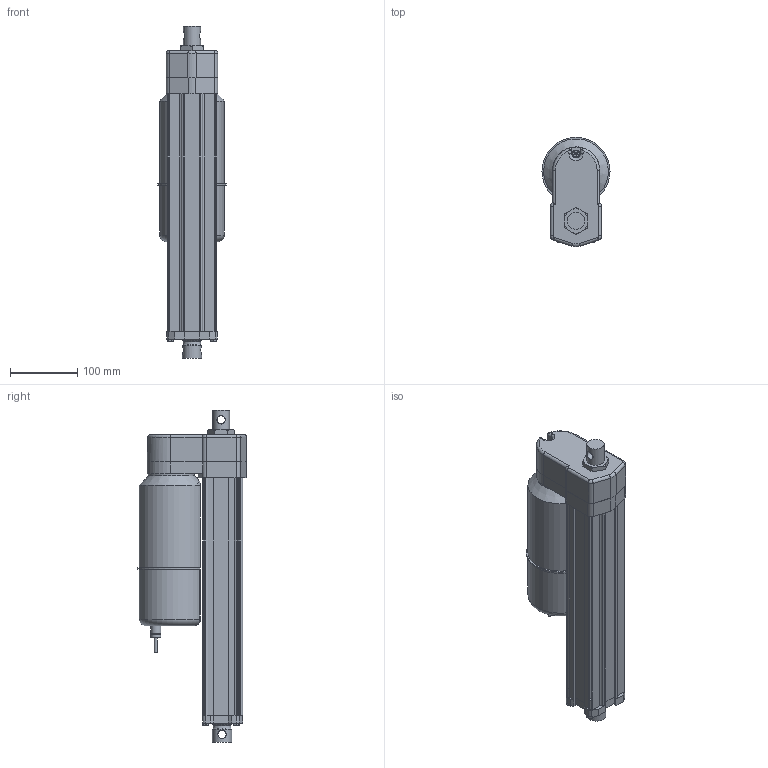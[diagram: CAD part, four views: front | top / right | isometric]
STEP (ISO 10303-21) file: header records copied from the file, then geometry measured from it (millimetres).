
FILE_DESCRIPTION (( 'STEP AP214' ), '1' );
FILE_NAME ('AA22-05A65M-30M0N-tollo.step', '2020-04-13T18:49:09', ( '' ), ( '' ), 'SwSTEP 2.0', 'SolidWorks 2010', '' );
FILE_SCHEMA (( 'AUTOMOTIVE_DESIGN' ));
Length unit declared in the file: millimetre
Products named in the file (8): Electrak-LA24-Motor-AA22-05A65M-30M0N-tollo_Electrak-LA24-Motor-AA22-05A65M-30M0N-tollo; Electrak-LA24-Rear-AA22-05A65M-30M0N-tollo_Electrak-LA24-Rear-AA22-05A65M-30M0N-tollo; Electrak-LA24-Tube-AA22-05A65M-30M0N-tollo_Electrak-LA24-Tube-AA22-05A65M-30M0N-tollo; Electrak-LA24-Rod-AA22-05A65M-30M0N-tollo_Electrak-LA24-Rod-AA22-05A65M-30M0N-tollo; Electrak-LA24-Plate-AA22-05A65M-30M0N-tollo_Electrak-LA24-Plate-AA22-05A65M-30M0N-tollo; Screw-MFX-H-M5_Screw-MFX-H-M5x24H; Screw-M6S-M5-AA22-05A65M-30M0N-tollo_Screw-M6S-M5-AA22-05A65M-30M0N-tollo; AA22-05A65M-30M0N-tollo
Assembly tree (10 placements, depth 2):
  AA22-05A65M-30M0N-tollo
    Electrak-LA24-Rear-AA22-05A65M-30M0N-tollo_Electrak-LA24-Rear-AA22-05A65M-30M0N-tollo
    Electrak-LA24-Tube-AA22-05A65M-30M0N-tollo_Electrak-LA24-Tube-AA22-05A65M-30M0N-tollo
    Screw-M6S-M5-AA22-05A65M-30M0N-tollo_Screw-M6S-M5-AA22-05A65M-30M0N-tollo  x4
    Electrak-LA24-Motor-AA22-05A65M-30M0N-tollo_Electrak-LA24-Motor-AA22-05A65M-30M0N-tollo
    Screw-MFX-H-M5_Screw-MFX-H-M5x24H
    Electrak-LA24-Plate-AA22-05A65M-30M0N-tollo_Electrak-LA24-Plate-AA22-05A65M-30M0N-tollo
    Electrak-LA24-Rod-AA22-05A65M-30M0N-tollo_Electrak-LA24-Rod-AA22-05A65M-30M0N-tollo
Bounding box: 100.99 x 162.5 x 492.8 mm (x, y, z)
Volume: 2780354.8 mm3; surface area: 387055.3 mm2
Topology: 10 solids, 10 shells, 353 faces, 886 edges, 572 vertices
Faces by surface type: plane 174, cylinder 128, cone 31, torus 15, bspline 3, sphere 2
Full cylindrical faces by diameter (mm): 4 x1, 4.126 x5, 4.8 x6, 5 x5, 5.6 x4, 7.878 x4, 9.3 x1, 10 x1, 12.2 x2, 15 x2, 25.4 x1, 28.6 x4, 47.625 x1, 68 x1
Entity records: 9633 total; most frequent: CARTESIAN_POINT 2397, DIRECTION 1446, ORIENTED_EDGE 1338, EDGE_CURVE 669, AXIS2_PLACEMENT_3D 527, VERTEX_POINT 460, LINE 392, VECTOR 392
